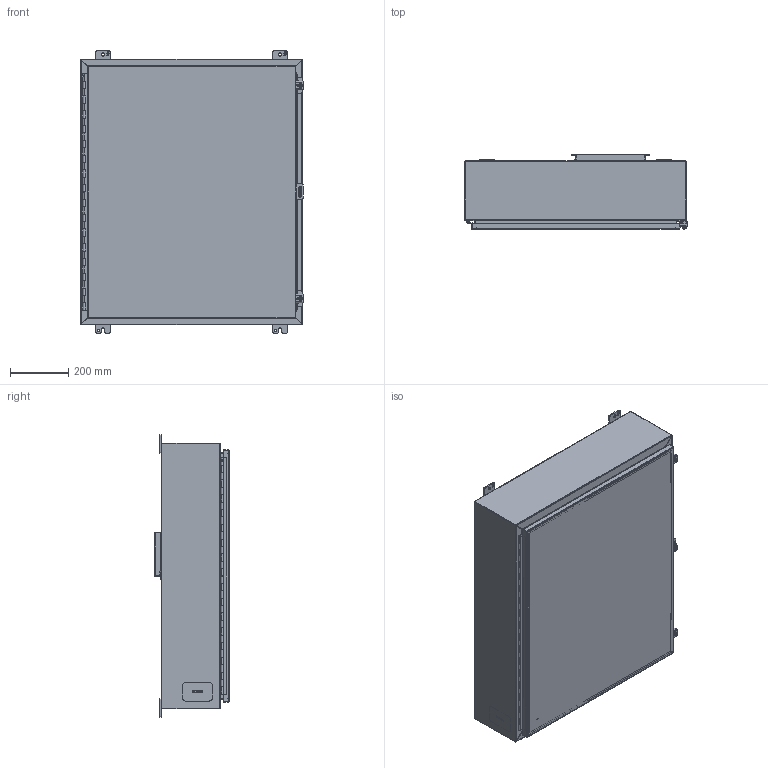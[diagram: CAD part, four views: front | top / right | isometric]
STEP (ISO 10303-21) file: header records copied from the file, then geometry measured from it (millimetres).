
FILE_DESCRIPTION(/* description */ ('Unknown'),/* implementation_level */ '2;1');
FILE_NAME(/* name */ '1418M8LP',/* time_stamp */ '2026-02-20T16:35:07-05:00',/* author */ ('Unknown'),/* organization */ ('Unknown'),/* preprocessor_version */ 'ST-DEVELOPER v18.104',/* originating_system */ 'Solid Edge',/* authorisation */ 'Unknown');
FILE_SCHEMA (('AUTOMOTIVE_DESIGN {1 0 10303 214 3 1 1}'));
Length unit declared in the file: millimetre
Products named in the file (31): 1418M8LP; STD26094; STD21878; COM42780; COM40153-1; COM71780-21; COM40153-2; HNG10620-32C; COM70219_oa_0; PNT11078; COM70018; FET07710; KIT90519; WAF25059; NTS166105; KIT90256; LAB30005; NTS165305; NTS16535; AKT90223; SPR20265; SCC19011; WAF25035; COM42667; HNG10620-32B; BUL10020; QLB30109; PKT99; HNG10620-32P; QLB20254
Assembly tree (42 placements, depth 3):
  1418M8LP
    STD26094  x6
    STD21878
    COM42780  x2
    COM40153-1
    COM71780-21
      COM40153-2
      COM71780-21
      STD21878
      HNG10620-32C
      COM70219_oa_0
      PNT11078
    COM70018
    FET07710  x4
    KIT90519
      WAF25059
      NTS166105
    KIT90256
      LAB30005
      NTS165305
      NTS16535
    AKT90223  x2
      SPR20265
      SCC19011
      WAF25035
      COM42667
    HNG10620-32B
    BUL10020
    QLB30109
    PKT99
    HNG10620-32P
    PNT11078
    QLB20254
Bounding box: 765.17 x 257.18 x 971.55 mm (x, y, z)
Volume: 4587238.9 mm3; surface area: 4956811.3 mm2
Topology: 37 solids, 38 shells, 1358 faces, 3457 edges, 2226 vertices
Faces by surface type: plane 902, cylinder 332, bspline 68, cone 28, torus 26, sphere 2
Full cylindrical faces by diameter (mm): 3.175 x1, 4.763 x1, 4.976 x1, 5.41 x2, 6.198 x2, 6.35 x3, 6.731 x2, 7.137 x2, 7.805 x1, 7.938 x4, 8.382 x6, 9.525 x6, 9.906 x2, 11.113 x4, 11.303 x1, 12.7 x2, 16.51 x6, 25.4 x1, 88.9 x1
Entity records: 35409 total; most frequent: CARTESIAN_POINT 10390, ORIENTED_EDGE 5094, DIRECTION 4654, EDGE_CURVE 2547, LINE 1692, VECTOR 1692, VERTEX_POINT 1649, AXIS2_PLACEMENT_3D 1481
